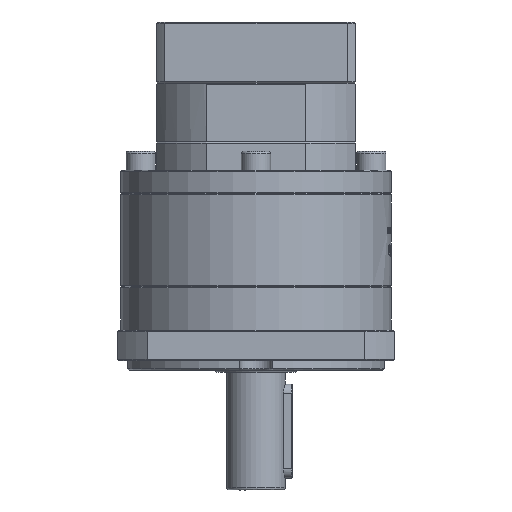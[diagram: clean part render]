
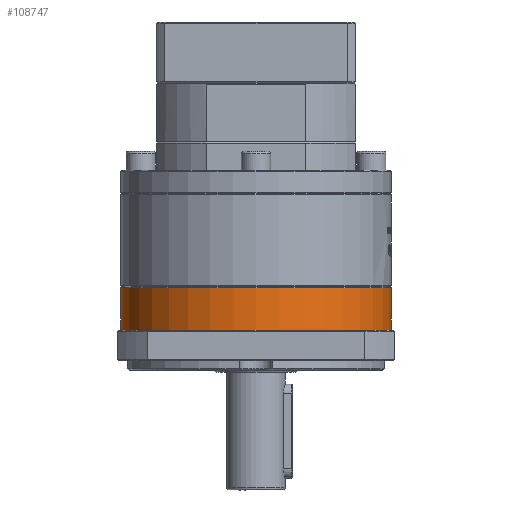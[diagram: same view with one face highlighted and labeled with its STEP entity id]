
A CAD part, front view. The second image highlights one B-rep face of the part: STEP entity #108747.
In plain terms, the highlighted cylindrical face has radius 57.5 mm (diameter 115 mm), a partial arc.
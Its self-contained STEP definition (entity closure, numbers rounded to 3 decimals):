
#3007 = CYLINDRICAL_SURFACE ( 'NONE', #88020, 57.5 ) ;
#6498 = VERTEX_POINT ( 'NONE', #41181 ) ;
#15488 = ORIENTED_EDGE ( 'NONE', *, *, #47677, .T. ) ;
#17308 = CIRCLE ( 'NONE', #45152, 57.5 ) ;
#17419 = CARTESIAN_POINT ( 'NONE',  ( -77.774, 58.054, -89.168 ) ) ;
#21342 = CARTESIAN_POINT ( 'NONE',  ( -135.274, 58.054, -89.168 ) ) ;
#26065 = DIRECTION ( 'NONE',  ( -1., 0., 0. ) ) ;
#33857 = FACE_OUTER_BOUND ( 'NONE', #92856, .T. ) ;
#37648 = CARTESIAN_POINT ( 'NONE',  ( -135.274, 58.054, -107.168 ) ) ;
#38740 = CARTESIAN_POINT ( 'NONE',  ( -77.774, 58.054, -107.168 ) ) ;
#41181 = CARTESIAN_POINT ( 'NONE',  ( -135.274, 58.054, -107.168 ) ) ;
#42305 = EDGE_CURVE ( 'NONE', #64512, #83453, #17308, .T. ) ;
#45152 = AXIS2_PLACEMENT_3D ( 'NONE', #17419, #77409, #26065 ) ;
#46300 = DIRECTION ( 'NONE',  ( 0., 0., 1. ) ) ;
#47406 = DIRECTION ( 'NONE',  ( 1., 0., 0. ) ) ;
#47677 = EDGE_CURVE ( 'NONE', #6498, #82903, #75068, .T. ) ;
#53100 = AXIS2_PLACEMENT_3D ( 'NONE', #38740, #98611, #47406 ) ;
#53529 = VECTOR ( 'NONE', #46300, 1000. ) ;
#54481 = LINE ( 'NONE', #96740, #97214 ) ;
#55239 = CARTESIAN_POINT ( 'NONE',  ( -20.274, 58.054, -107.168 ) ) ;
#59083 = CARTESIAN_POINT ( 'NONE',  ( -77.774, 58.054, -107.168 ) ) ;
#63339 = CARTESIAN_POINT ( 'NONE',  ( -20.274, 58.054, -89.168 ) ) ;
#64512 = VERTEX_POINT ( 'NONE', #21342 ) ;
#64949 = ORIENTED_EDGE ( 'NONE', *, *, #42305, .F. ) ;
#67694 = DIRECTION ( 'NONE',  ( 0., 0., 1. ) ) ;
#72443 = ORIENTED_EDGE ( 'NONE', *, *, #78820, .F. ) ;
#73129 = ORIENTED_EDGE ( 'NONE', *, *, #97035, .T. ) ;
#75068 = CIRCLE ( 'NONE', #53100, 57.5 ) ;
#76206 = LINE ( 'NONE', #37648, #53529 ) ;
#77409 = DIRECTION ( 'NONE',  ( 0., 0., 1. ) ) ;
#78820 = EDGE_CURVE ( 'NONE', #6498, #64512, #76206, .T. ) ;
#82903 = VERTEX_POINT ( 'NONE', #55239 ) ;
#83453 = VERTEX_POINT ( 'NONE', #63339 ) ;
#88020 = AXIS2_PLACEMENT_3D ( 'NONE', #59083, #67694, #110653 ) ;
#92856 = EDGE_LOOP ( 'NONE', ( #72443, #15488, #73129, #64949 ) ) ;
#96740 = CARTESIAN_POINT ( 'NONE',  ( -20.274, 58.054, -107.168 ) ) ;
#97035 = EDGE_CURVE ( 'NONE', #82903, #83453, #54481, .T. ) ;
#97214 = VECTOR ( 'NONE', #105345, 1000. ) ;
#98611 = DIRECTION ( 'NONE',  ( 0., 0., 1. ) ) ;
#105345 = DIRECTION ( 'NONE',  ( 0., 0., 1. ) ) ;
#108747 = ADVANCED_FACE ( 'NONE', ( #33857 ), #3007, .T. ) ;
#110653 = DIRECTION ( 'NONE',  ( 1., 0., 0. ) ) ;
